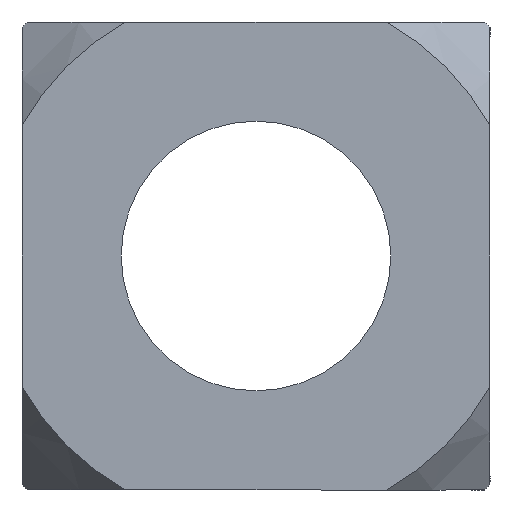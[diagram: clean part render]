
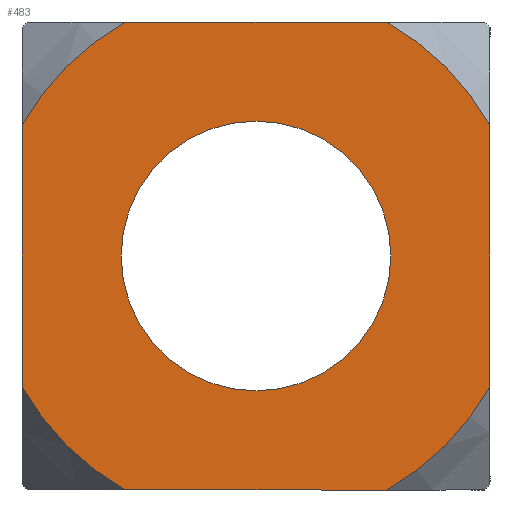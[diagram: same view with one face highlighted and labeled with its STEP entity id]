
A CAD part, front view. The second image highlights one B-rep face of the part: STEP entity #483.
In plain terms, the highlighted planar face has unit normal (0, -1, 0).
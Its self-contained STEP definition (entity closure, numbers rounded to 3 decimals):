
#8 = CARTESIAN_POINT ( 'NONE',  ( -3.279, 0., 5.9 ) ) ;
#34 = VERTEX_POINT ( 'NONE', #1046 ) ;
#39 = ORIENTED_EDGE ( 'NONE', *, *, #861, .F. ) ;
#42 = DIRECTION ( 'NONE',  ( 0., 0., 1. ) ) ;
#51 = CARTESIAN_POINT ( 'NONE',  ( 3.279, 0., 5.9 ) ) ;
#57 = VERTEX_POINT ( 'NONE', #269 ) ;
#74 = ORIENTED_EDGE ( 'NONE', *, *, #639, .T. ) ;
#78 = EDGE_LOOP ( 'NONE', ( #171, #1080 ) ) ;
#105 = CARTESIAN_POINT ( 'NONE',  ( 5.9, 0., 3.279 ) ) ;
#148 = DIRECTION ( 'NONE',  ( 0., 0., 1. ) ) ;
#150 = DIRECTION ( 'NONE',  ( 0., -1., 0. ) ) ;
#171 = ORIENTED_EDGE ( 'NONE', *, *, #676, .T. ) ;
#204 = DIRECTION ( 'NONE',  ( 0., 0., 1. ) ) ;
#213 = CARTESIAN_POINT ( 'NONE',  ( -5.9, 0., 3.279 ) ) ;
#216 = ORIENTED_EDGE ( 'NONE', *, *, #641, .T. ) ;
#222 = VERTEX_POINT ( 'NONE', #8 ) ;
#239 = VERTEX_POINT ( 'NONE', #51 ) ;
#250 = DIRECTION ( 'NONE',  ( 0., -1., 0. ) ) ;
#256 = VERTEX_POINT ( 'NONE', #1074 ) ;
#265 = ORIENTED_EDGE ( 'NONE', *, *, #682, .F. ) ;
#269 = CARTESIAN_POINT ( 'NONE',  ( -3.279, 0., -5.9 ) ) ;
#294 = VERTEX_POINT ( 'NONE', #213 ) ;
#304 = AXIS2_PLACEMENT_3D ( 'NONE', #1056, #609, #42 ) ;
#310 = ORIENTED_EDGE ( 'NONE', *, *, #441, .T. ) ;
#314 = VERTEX_POINT ( 'NONE', #1035 ) ;
#335 = CARTESIAN_POINT ( 'NONE',  ( 0., 0., 5.9 ) ) ;
#340 = CARTESIAN_POINT ( 'NONE',  ( 0., 0., 0. ) ) ;
#361 = EDGE_LOOP ( 'NONE', ( #415, #216, #39, #458, #265, #74, #519, #310 ) ) ;
#366 = DIRECTION ( 'NONE',  ( -1., 0., 0. ) ) ;
#408 = VERTEX_POINT ( 'NONE', #667 ) ;
#415 = ORIENTED_EDGE ( 'NONE', *, *, #681, .F. ) ;
#424 = VERTEX_POINT ( 'NONE', #105 ) ;
#441 = EDGE_CURVE ( 'NONE', #222, #294, #993, .T. ) ;
#451 = AXIS2_PLACEMENT_3D ( 'NONE', #798, #250, #869 ) ;
#454 = DIRECTION ( 'NONE',  ( 1., 0., 0. ) ) ;
#458 = ORIENTED_EDGE ( 'NONE', *, *, #717, .T. ) ;
#464 = DIRECTION ( 'NONE',  ( 0., 0., -1. ) ) ;
#483 = ADVANCED_FACE ( 'NONE', ( #985, #1005 ), #671, .F. ) ;
#485 = AXIS2_PLACEMENT_3D ( 'NONE', #558, #1073, #630 ) ;
#517 = CARTESIAN_POINT ( 'NONE',  ( 0., 0., 0. ) ) ;
#519 = ORIENTED_EDGE ( 'NONE', *, *, #685, .F. ) ;
#533 = AXIS2_PLACEMENT_3D ( 'NONE', #340, #943, #464 ) ;
#541 = AXIS2_PLACEMENT_3D ( 'NONE', #586, #749, #204 ) ;
#549 = AXIS2_PLACEMENT_3D ( 'NONE', #517, #1043, #590 ) ;
#558 = CARTESIAN_POINT ( 'NONE',  ( 0., 0., 0. ) ) ;
#586 = CARTESIAN_POINT ( 'NONE',  ( 0., 0., 0. ) ) ;
#590 = DIRECTION ( 'NONE',  ( 0., 0., -1. ) ) ;
#609 = DIRECTION ( 'NONE',  ( 0., 1., 0. ) ) ;
#630 = DIRECTION ( 'NONE',  ( 0., 0., 1. ) ) ;
#638 = CIRCLE ( 'NONE', #304, 3.4 ) ;
#639 = EDGE_CURVE ( 'NONE', #424, #239, #957, .T. ) ;
#641 = EDGE_CURVE ( 'NONE', #408, #57, #953, .T. ) ;
#650 = VERTEX_POINT ( 'NONE', #855 ) ;
#667 = CARTESIAN_POINT ( 'NONE',  ( -5.9, 0., -3.279 ) ) ;
#671 = PLANE ( 'NONE',  #541 ) ;
#676 = EDGE_CURVE ( 'NONE', #34, #256, #911, .T. ) ;
#681 = EDGE_CURVE ( 'NONE', #408, #294, #914, .T. ) ;
#682 = EDGE_CURVE ( 'NONE', #424, #650, #899, .T. ) ;
#685 = EDGE_CURVE ( 'NONE', #222, #239, #895, .T. ) ;
#707 = CARTESIAN_POINT ( 'NONE',  ( 0., 0., 0. ) ) ;
#709 = VECTOR ( 'NONE', #366, 1000. ) ;
#711 = LINE ( 'NONE', #723, #709 ) ;
#717 = EDGE_CURVE ( 'NONE', #314, #650, #875, .T. ) ;
#723 = CARTESIAN_POINT ( 'NONE',  ( 0., 0., -5.9 ) ) ;
#749 = DIRECTION ( 'NONE',  ( 0., 1., 0. ) ) ;
#781 = CARTESIAN_POINT ( 'NONE',  ( 5.9, 0., 0. ) ) ;
#792 = DIRECTION ( 'NONE',  ( 0., 0., -1. ) ) ;
#798 = CARTESIAN_POINT ( 'NONE',  ( 0., 0., 0. ) ) ;
#855 = CARTESIAN_POINT ( 'NONE',  ( 5.9, 0., -3.279 ) ) ;
#859 = DIRECTION ( 'NONE',  ( 0., 0., -1. ) ) ;
#861 = EDGE_CURVE ( 'NONE', #314, #57, #711, .T. ) ;
#869 = DIRECTION ( 'NONE',  ( 0., 0., -1. ) ) ;
#875 = CIRCLE ( 'NONE', #451, 6.75 ) ;
#878 = VECTOR ( 'NONE', #454, 1000. ) ;
#881 = VECTOR ( 'NONE', #859, 1000. ) ;
#895 = LINE ( 'NONE', #335, #878 ) ;
#898 = VECTOR ( 'NONE', #148, 1000. ) ;
#899 = LINE ( 'NONE', #781, #881 ) ;
#911 = CIRCLE ( 'NONE', #485, 3.4 ) ;
#913 = EDGE_CURVE ( 'NONE', #256, #34, #638, .T. ) ;
#914 = LINE ( 'NONE', #1012, #898 ) ;
#943 = DIRECTION ( 'NONE',  ( 0., -1., 0. ) ) ;
#953 = CIRCLE ( 'NONE', #533, 6.75 ) ;
#957 = CIRCLE ( 'NONE', #992, 6.75 ) ;
#985 = FACE_BOUND ( 'NONE', #78, .T. ) ;
#992 = AXIS2_PLACEMENT_3D ( 'NONE', #707, #150, #792 ) ;
#993 = CIRCLE ( 'NONE', #549, 6.75 ) ;
#1005 = FACE_OUTER_BOUND ( 'NONE', #361, .T. ) ;
#1012 = CARTESIAN_POINT ( 'NONE',  ( -5.9, 0., 0. ) ) ;
#1035 = CARTESIAN_POINT ( 'NONE',  ( 3.279, 0., -5.9 ) ) ;
#1043 = DIRECTION ( 'NONE',  ( 0., -1., 0. ) ) ;
#1046 = CARTESIAN_POINT ( 'NONE',  ( 0., 0., 3.4 ) ) ;
#1056 = CARTESIAN_POINT ( 'NONE',  ( 0., 0., 0. ) ) ;
#1073 = DIRECTION ( 'NONE',  ( 0., 1., 0. ) ) ;
#1074 = CARTESIAN_POINT ( 'NONE',  ( 0., 0., -3.4 ) ) ;
#1080 = ORIENTED_EDGE ( 'NONE', *, *, #913, .T. ) ;
